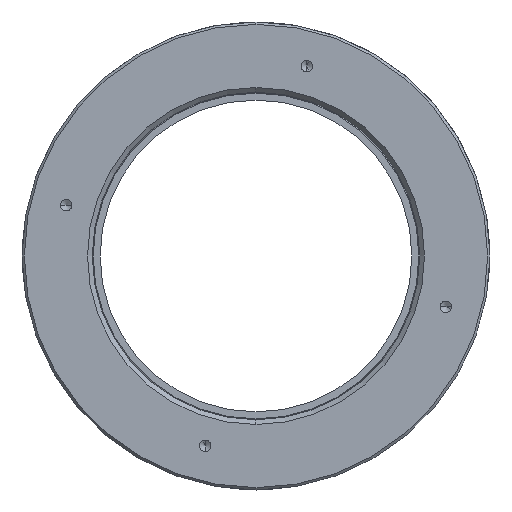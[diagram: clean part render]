
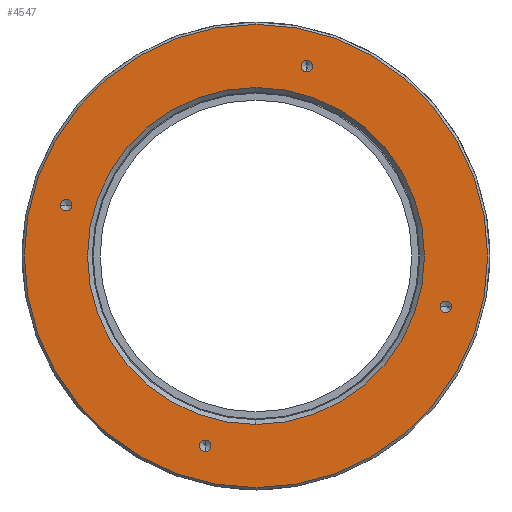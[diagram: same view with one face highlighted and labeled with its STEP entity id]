
A CAD part, front view. The second image highlights one B-rep face of the part: STEP entity #4547.
In plain terms, the highlighted planar face has unit normal (0, -1, 0).
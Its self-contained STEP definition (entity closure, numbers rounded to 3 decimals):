
#81 = CARTESIAN_POINT ( 'NONE',  ( -10.87, 0., -40.569 ) ) ;
#104 = DIRECTION ( 'NONE',  ( 0., -1., 0. ) ) ;
#160 = ORIENTED_EDGE ( 'NONE', *, *, #3774, .T. ) ;
#164 = EDGE_LOOP ( 'NONE', ( #5179, #5298 ) ) ;
#170 = CARTESIAN_POINT ( 'NONE',  ( 0., 0., 49.5 ) ) ;
#183 = VERTEX_POINT ( 'NONE', #170 ) ;
#210 = PLANE ( 'NONE',  #2004 ) ;
#236 = FACE_BOUND ( 'NONE', #259, .T. ) ;
#254 = CIRCLE ( 'NONE', #4682, 1.25 ) ;
#259 = EDGE_LOOP ( 'NONE', ( #645, #1746 ) ) ;
#261 = CARTESIAN_POINT ( 'NONE',  ( 0., 0., 0. ) ) ;
#307 = AXIS2_PLACEMENT_3D ( 'NONE', #5023, #3247, #3322 ) ;
#374 = DIRECTION ( 'NONE',  ( 1., 0., 0. ) ) ;
#376 = ORIENTED_EDGE ( 'NONE', *, *, #3964, .F. ) ;
#394 = EDGE_LOOP ( 'NONE', ( #5583, #160 ) ) ;
#452 = VERTEX_POINT ( 'NONE', #4050 ) ;
#484 = CARTESIAN_POINT ( 'NONE',  ( 0., 0., 0. ) ) ;
#528 = EDGE_CURVE ( 'NONE', #183, #1511, #1075, .T. ) ;
#583 = CARTESIAN_POINT ( 'NONE',  ( 41.819, 0., -10.87 ) ) ;
#602 = DIRECTION ( 'NONE',  ( 0., -1., 0. ) ) ;
#610 = DIRECTION ( 'NONE',  ( 0., 0., 1. ) ) ;
#620 = DIRECTION ( 'NONE',  ( 0., 0., -1. ) ) ;
#645 = ORIENTED_EDGE ( 'NONE', *, *, #3617, .F. ) ;
#726 = DIRECTION ( 'NONE',  ( 0., -1., 0. ) ) ;
#935 = DIRECTION ( 'NONE',  ( 0., -1., 0. ) ) ;
#1020 = DIRECTION ( 'NONE',  ( 0., 0., -1. ) ) ;
#1075 = CIRCLE ( 'NONE', #2063, 49.5 ) ;
#1101 = CIRCLE ( 'NONE', #307, 1.25 ) ;
#1106 = FACE_BOUND ( 'NONE', #4015, .T. ) ;
#1227 = CARTESIAN_POINT ( 'NONE',  ( -10.87, 0., -39.319 ) ) ;
#1311 = CARTESIAN_POINT ( 'NONE',  ( 0., 0., 36. ) ) ;
#1333 = CIRCLE ( 'NONE', #3241, 36. ) ;
#1444 = DIRECTION ( 'NONE',  ( 0., -1., 0. ) ) ;
#1511 = VERTEX_POINT ( 'NONE', #3791 ) ;
#1640 = DIRECTION ( 'NONE',  ( 0., -1., 0. ) ) ;
#1642 = ORIENTED_EDGE ( 'NONE', *, *, #3794, .F. ) ;
#1669 = CIRCLE ( 'NONE', #2587, 36. ) ;
#1746 = ORIENTED_EDGE ( 'NONE', *, *, #2840, .F. ) ;
#1789 = AXIS2_PLACEMENT_3D ( 'NONE', #5083, #1640, #3010 ) ;
#1796 = ORIENTED_EDGE ( 'NONE', *, *, #4445, .F. ) ;
#1845 = DIRECTION ( 'NONE',  ( 0., -1., 0. ) ) ;
#1879 = VERTEX_POINT ( 'NONE', #5605 ) ;
#1896 = DIRECTION ( 'NONE',  ( 0., -1., 0. ) ) ;
#1908 = EDGE_CURVE ( 'NONE', #452, #4499, #2350, .T. ) ;
#1947 = CARTESIAN_POINT ( 'NONE',  ( 0., 0., 0. ) ) ;
#1956 = FACE_BOUND ( 'NONE', #2727, .T. ) ;
#1976 = DIRECTION ( 'NONE',  ( 0., 0., -1. ) ) ;
#2004 = AXIS2_PLACEMENT_3D ( 'NONE', #3751, #3699, #610 ) ;
#2063 = AXIS2_PLACEMENT_3D ( 'NONE', #2850, #726, #620 ) ;
#2120 = VERTEX_POINT ( 'NONE', #1311 ) ;
#2205 = CARTESIAN_POINT ( 'NONE',  ( 10.87, 0., 40.569 ) ) ;
#2276 = DIRECTION ( 'NONE',  ( -1., 0., 0. ) ) ;
#2336 = CARTESIAN_POINT ( 'NONE',  ( -41.819, 0., 10.87 ) ) ;
#2341 = ORIENTED_EDGE ( 'NONE', *, *, #4590, .F. ) ;
#2350 = CIRCLE ( 'NONE', #1789, 1.25 ) ;
#2509 = CARTESIAN_POINT ( 'NONE',  ( 40.569, 0., -10.87 ) ) ;
#2544 = VERTEX_POINT ( 'NONE', #3778 ) ;
#2587 = AXIS2_PLACEMENT_3D ( 'NONE', #484, #935, #2676 ) ;
#2609 = DIRECTION ( 'NONE',  ( 0., 0., 1. ) ) ;
#2618 = DIRECTION ( 'NONE',  ( 0., 0., -1. ) ) ;
#2676 = DIRECTION ( 'NONE',  ( 0., 0., -1. ) ) ;
#2727 = EDGE_LOOP ( 'NONE', ( #1642, #4222 ) ) ;
#2760 = EDGE_CURVE ( 'NONE', #3317, #4115, #2831, .T. ) ;
#2792 = FACE_OUTER_BOUND ( 'NONE', #394, .T. ) ;
#2831 = CIRCLE ( 'NONE', #4922, 1.25 ) ;
#2840 = EDGE_CURVE ( 'NONE', #5401, #4935, #4730, .T. ) ;
#2842 = FACE_BOUND ( 'NONE', #5276, .T. ) ;
#2850 = CARTESIAN_POINT ( 'NONE',  ( 0., 0., 0. ) ) ;
#3006 = AXIS2_PLACEMENT_3D ( 'NONE', #2509, #4235, #374 ) ;
#3010 = DIRECTION ( 'NONE',  ( 1., 0., 0. ) ) ;
#3013 = CARTESIAN_POINT ( 'NONE',  ( -10.87, 0., -41.819 ) ) ;
#3183 = CARTESIAN_POINT ( 'NONE',  ( -40.569, 0., 10.87 ) ) ;
#3215 = DIRECTION ( 'NONE',  ( 0., 0., -1. ) ) ;
#3241 = AXIS2_PLACEMENT_3D ( 'NONE', #1947, #1444, #1020 ) ;
#3247 = DIRECTION ( 'NONE',  ( 0., -1., 0. ) ) ;
#3268 = CARTESIAN_POINT ( 'NONE',  ( 10.87, 0., 39.319 ) ) ;
#3307 = CARTESIAN_POINT ( 'NONE',  ( 10.87, 0., 41.819 ) ) ;
#3317 = VERTEX_POINT ( 'NONE', #3268 ) ;
#3322 = DIRECTION ( 'NONE',  ( -1., 0., 0. ) ) ;
#3331 = CIRCLE ( 'NONE', #4328, 1.25 ) ;
#3335 = VERTEX_POINT ( 'NONE', #2336 ) ;
#3617 = EDGE_CURVE ( 'NONE', #4935, #5401, #254, .T. ) ;
#3637 = CARTESIAN_POINT ( 'NONE',  ( -10.87, 0., -40.569 ) ) ;
#3692 = AXIS2_PLACEMENT_3D ( 'NONE', #261, #602, #1976 ) ;
#3699 = DIRECTION ( 'NONE',  ( 0., 1., 0. ) ) ;
#3751 = CARTESIAN_POINT ( 'NONE',  ( 0., 0., 0. ) ) ;
#3774 = EDGE_CURVE ( 'NONE', #1511, #183, #4146, .T. ) ;
#3778 = CARTESIAN_POINT ( 'NONE',  ( -39.319, 0., 10.87 ) ) ;
#3791 = CARTESIAN_POINT ( 'NONE',  ( 0., 0., -49.5 ) ) ;
#3792 = CARTESIAN_POINT ( 'NONE',  ( 10.87, 0., 40.569 ) ) ;
#3794 = EDGE_CURVE ( 'NONE', #1879, #2120, #1333, .T. ) ;
#3908 = ORIENTED_EDGE ( 'NONE', *, *, #2760, .F. ) ;
#3964 = EDGE_CURVE ( 'NONE', #4115, #3317, #3331, .T. ) ;
#4015 = EDGE_LOOP ( 'NONE', ( #376, #3908 ) ) ;
#4036 = DIRECTION ( 'NONE',  ( 0., -1., 0. ) ) ;
#4050 = CARTESIAN_POINT ( 'NONE',  ( 39.319, 0., -10.87 ) ) ;
#4115 = VERTEX_POINT ( 'NONE', #3307 ) ;
#4118 = DIRECTION ( 'NONE',  ( 0., 0., 1. ) ) ;
#4146 = CIRCLE ( 'NONE', #3692, 49.5 ) ;
#4222 = ORIENTED_EDGE ( 'NONE', *, *, #4835, .F. ) ;
#4235 = DIRECTION ( 'NONE',  ( 0., -1., 0. ) ) ;
#4328 = AXIS2_PLACEMENT_3D ( 'NONE', #2205, #104, #2609 ) ;
#4368 = AXIS2_PLACEMENT_3D ( 'NONE', #3637, #4036, #3215 ) ;
#4380 = EDGE_CURVE ( 'NONE', #4499, #452, #4917, .T. ) ;
#4395 = DIRECTION ( 'NONE',  ( 0., -1., 0. ) ) ;
#4445 = EDGE_CURVE ( 'NONE', #3335, #2544, #4553, .T. ) ;
#4499 = VERTEX_POINT ( 'NONE', #583 ) ;
#4547 = ADVANCED_FACE ( 'NONE', ( #5491, #1106, #2842, #236, #1956, #2792 ), #210, .F. ) ;
#4553 = CIRCLE ( 'NONE', #5092, 1.25 ) ;
#4590 = EDGE_CURVE ( 'NONE', #2544, #3335, #1101, .T. ) ;
#4682 = AXIS2_PLACEMENT_3D ( 'NONE', #81, #4395, #2618 ) ;
#4730 = CIRCLE ( 'NONE', #4368, 1.25 ) ;
#4835 = EDGE_CURVE ( 'NONE', #2120, #1879, #1669, .T. ) ;
#4917 = CIRCLE ( 'NONE', #3006, 1.25 ) ;
#4922 = AXIS2_PLACEMENT_3D ( 'NONE', #3792, #1896, #4118 ) ;
#4935 = VERTEX_POINT ( 'NONE', #3013 ) ;
#5023 = CARTESIAN_POINT ( 'NONE',  ( -40.569, 0., 10.87 ) ) ;
#5083 = CARTESIAN_POINT ( 'NONE',  ( 40.569, 0., -10.87 ) ) ;
#5092 = AXIS2_PLACEMENT_3D ( 'NONE', #3183, #1845, #2276 ) ;
#5179 = ORIENTED_EDGE ( 'NONE', *, *, #4380, .F. ) ;
#5276 = EDGE_LOOP ( 'NONE', ( #1796, #2341 ) ) ;
#5298 = ORIENTED_EDGE ( 'NONE', *, *, #1908, .F. ) ;
#5401 = VERTEX_POINT ( 'NONE', #1227 ) ;
#5491 = FACE_BOUND ( 'NONE', #164, .T. ) ;
#5583 = ORIENTED_EDGE ( 'NONE', *, *, #528, .T. ) ;
#5605 = CARTESIAN_POINT ( 'NONE',  ( 0., 0., -36. ) ) ;
